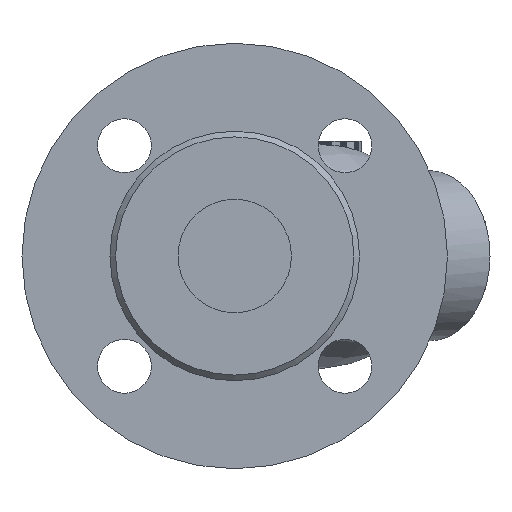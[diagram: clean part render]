
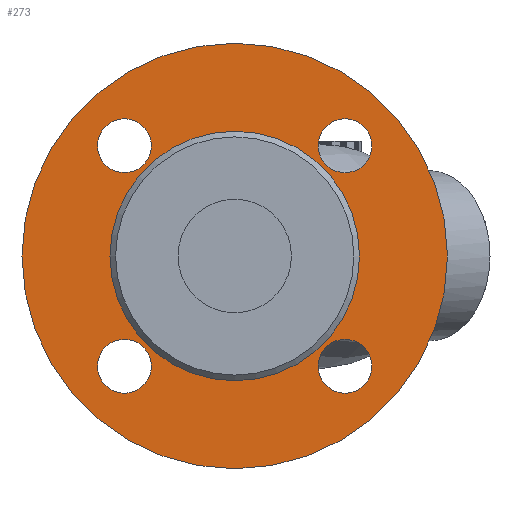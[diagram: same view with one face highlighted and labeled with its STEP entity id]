
A CAD part, left-side view. The second image highlights one B-rep face of the part: STEP entity #273.
In plain terms, the highlighted planar face has unit normal (-1, 0, 0).
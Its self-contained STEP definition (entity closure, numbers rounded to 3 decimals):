
#273=ADVANCED_FACE('',(#8141,#8143,#8145,#8147,#8149,#8151),#8153,.T.);
#8141=FACE_BOUND('',#8142,.T.);
#8142=EDGE_LOOP('',(#15071,#15072));
#8143=FACE_BOUND('',#8144,.T.);
#8144=EDGE_LOOP('',(#15073));
#8145=FACE_BOUND('',#8146,.T.);
#8146=EDGE_LOOP('',(#15074));
#8147=FACE_BOUND('',#8148,.T.);
#8148=EDGE_LOOP('',(#15075));
#8149=FACE_BOUND('',#8150,.T.);
#8150=EDGE_LOOP('',(#15076));
#8151=FACE_BOUND('',#8152,.T.);
#8152=EDGE_LOOP('',(#15077,#15078));
#8153=PLANE('',#8154);
#8154=AXIS2_PLACEMENT_3D('',#8155,#8156,#8157);
#8155=CARTESIAN_POINT('',(5266.42,-910.268,-7.5));
#8156=DIRECTION('',(-1.,0.,0.));
#8157=DIRECTION('',(0.,0.,1.));
#15071=ORIENTED_EDGE('',*,*,#20156,.F.);
#15072=ORIENTED_EDGE('',*,*,#20157,.F.);
#15073=ORIENTED_EDGE('',*,*,#20145,.T.);
#15074=ORIENTED_EDGE('',*,*,#20147,.T.);
#15075=ORIENTED_EDGE('',*,*,#20149,.T.);
#15076=ORIENTED_EDGE('',*,*,#20143,.T.);
#15077=ORIENTED_EDGE('',*,*,#20155,.T.);
#15078=ORIENTED_EDGE('',*,*,#20154,.T.);
#20143=EDGE_CURVE('',#23549,#23549,#23550,.T.);
#20145=EDGE_CURVE('',#23553,#23553,#23554,.T.);
#20147=EDGE_CURVE('',#23557,#23557,#23558,.T.);
#20149=EDGE_CURVE('',#23561,#23561,#23562,.T.);
#20154=EDGE_CURVE('',#23571,#23572,#23573,.T.);
#20155=EDGE_CURVE('',#23572,#23571,#23574,.T.);
#20156=EDGE_CURVE('',#23575,#23576,#23577,.T.);
#20157=EDGE_CURVE('',#23576,#23575,#23578,.T.);
#23549=VERTEX_POINT('',#32516);
#23550=CIRCLE('',#32517,9.5);
#23553=VERTEX_POINT('',#32526);
#23554=CIRCLE('',#32527,9.5);
#23557=VERTEX_POINT('',#32536);
#23558=CIRCLE('',#32537,9.5);
#23561=VERTEX_POINT('',#32546);
#23562=CIRCLE('',#32547,9.5);
#23571=VERTEX_POINT('',#32571);
#23572=VERTEX_POINT('',#32572);
#23573=CIRCLE('',#32573,44.);
#23574=CIRCLE('',#32577,44.);
#23575=VERTEX_POINT('',#32581);
#23576=VERTEX_POINT('',#32582);
#23577=CIRCLE('',#32583,75.);
#23578=CIRCLE('',#32587,75.);
#32516=CARTESIAN_POINT('',(5266.42,-1033.658,-46.391));
#32517=AXIS2_PLACEMENT_3D('',#32518,#32519,#32520);
#32518=CARTESIAN_POINT('',(5266.42,-1024.158,-46.391));
#32519=DIRECTION('',(1.,0.,0.));
#32520=DIRECTION('',(0.,-1.,0.));
#32526=CARTESIAN_POINT('',(5266.42,-955.877,-46.391));
#32527=AXIS2_PLACEMENT_3D('',#32528,#32529,#32530);
#32528=CARTESIAN_POINT('',(5266.42,-946.377,-46.391));
#32529=DIRECTION('',(1.,0.,0.));
#32530=DIRECTION('',(0.,-1.,0.));
#32536=CARTESIAN_POINT('',(5266.42,-955.877,31.391));
#32537=AXIS2_PLACEMENT_3D('',#32538,#32539,#32540);
#32538=CARTESIAN_POINT('',(5266.42,-946.377,31.391));
#32539=DIRECTION('',(1.,0.,0.));
#32540=DIRECTION('',(0.,-1.,0.));
#32546=CARTESIAN_POINT('',(5266.42,-1033.658,31.391));
#32547=AXIS2_PLACEMENT_3D('',#32548,#32549,#32550);
#32548=CARTESIAN_POINT('',(5266.42,-1024.158,31.391));
#32549=DIRECTION('',(1.,0.,0.));
#32550=DIRECTION('',(0.,-1.,0.));
#32571=CARTESIAN_POINT('',(5266.42,-1029.268,-7.5));
#32572=CARTESIAN_POINT('',(5266.42,-941.268,-7.5));
#32573=AXIS2_PLACEMENT_3D('',#32574,#32575,#32576);
#32574=CARTESIAN_POINT('',(5266.42,-985.268,-7.5));
#32575=DIRECTION('',(1.,0.,0.));
#32576=DIRECTION('',(0.,-1.,0.));
#32577=AXIS2_PLACEMENT_3D('',#32578,#32579,#32580);
#32578=CARTESIAN_POINT('',(5266.42,-985.268,-7.5));
#32579=DIRECTION('',(1.,0.,0.));
#32580=DIRECTION('',(0.,1.,0.));
#32581=CARTESIAN_POINT('',(5266.42,-1060.268,-7.5));
#32582=CARTESIAN_POINT('',(5266.42,-910.268,-7.5));
#32583=AXIS2_PLACEMENT_3D('',#32584,#32585,#32586);
#32584=CARTESIAN_POINT('',(5266.42,-985.268,-7.5));
#32585=DIRECTION('',(1.,0.,0.));
#32586=DIRECTION('',(0.,-1.,0.));
#32587=AXIS2_PLACEMENT_3D('',#32588,#32589,#32590);
#32588=CARTESIAN_POINT('',(5266.42,-985.268,-7.5));
#32589=DIRECTION('',(1.,0.,0.));
#32590=DIRECTION('',(0.,1.,0.));
